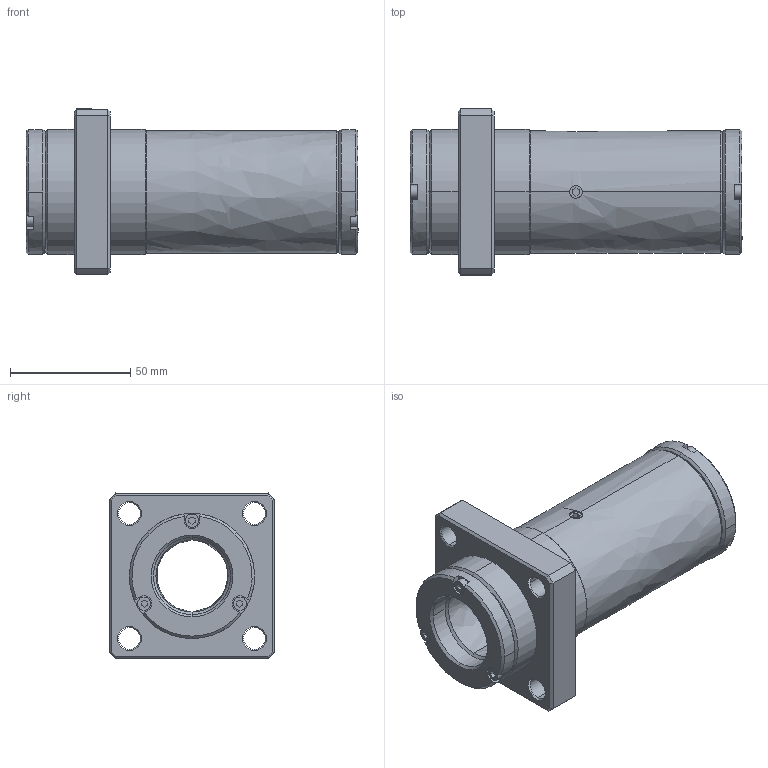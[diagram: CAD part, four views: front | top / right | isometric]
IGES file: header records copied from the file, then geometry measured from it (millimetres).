
Start section: 3D InterOp IGES (Version 21 0 1), Spatial Corp. Copyright (c) 1999-2007.
Global section: file name: LCF-30BUU-K.igs; native system: Spatial Corp.; preprocessor: 3D InterOp GENERIC/IGES 3.0; author: Noname; organization: Noname; date: 20220203.170934; units: millimetre
Bounding box: 138 x 69 x 69 mm (x, y, z)
Surface area: 46668.5 mm2 (no closed solid volume)
Topology: 0 solids, 0 shells, 196 faces, 996 edges, 996 vertices
Faces by surface type: revolution 104, extrusion 92
